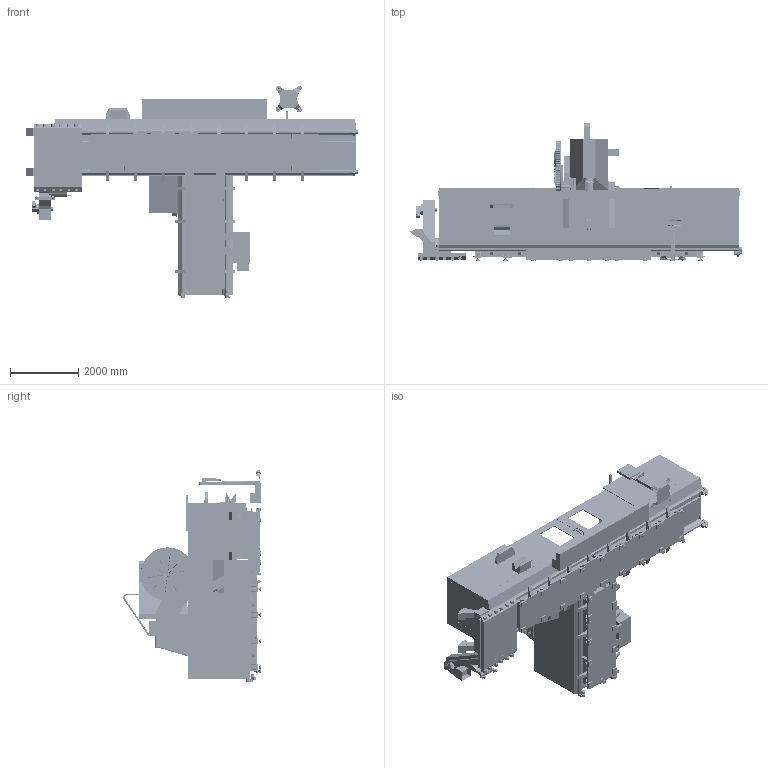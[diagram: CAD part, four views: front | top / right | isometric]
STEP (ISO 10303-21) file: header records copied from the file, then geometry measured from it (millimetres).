
FILE_DESCRIPTION (( 'STEP AP203' ), '1' );
FILE_NAME ('VA-3-5AX 1_2025.STEP', '2025-01-16T22:16:54', ( '' ), ( '' ), 'SwSTEP 2.0', 'SolidWorks 2023', '' );
FILE_SCHEMA (( 'CONFIG_CONTROL_DESIGN' ));
Length unit declared in the file: inch
Products named in the file (15): VS-3-5ax-95 Gallon In-Tank Conveyor kit; vs-3-5ax-Chip Chutes and 95 gallon tank; vs-3-5ax-70 pxt tool changer; VS-3-5ax-Floor; vs-3-5ax-Base; vs-3-5ax-Enclosure; VS-3-5ax-Column; VA-3-5AX 1_2025; vs-3-5ax-waycovers; vs-3-5ax-Table; VS-3-5ax-Control Panel; VS-3-5ax-Steps; vs-3-5ax-leveling pads; vs-3-5ax-Dual support Spindle; vs-3-5ax-Z Axis
Assembly tree (14 placements, depth 2):
  VA-3-5AX 1_2025
    vs-3-5ax-Base
    vs-3-5ax-leveling pads
    VS-3-5ax-Column
    vs-3-5ax-Table
    vs-3-5ax-70 pxt tool changer
    vs-3-5ax-Z Axis
    vs-3-5ax-Dual support Spindle
    vs-3-5ax-waycovers
    VS-3-5ax-Floor
    vs-3-5ax-Enclosure
    VS-3-5ax-Control Panel
    VS-3-5ax-Steps
    VS-3-5ax-95 Gallon In-Tank Conveyor kit
    vs-3-5ax-Chip Chutes and 95 gallon tank
Bounding box: 9696.13 x 4019.53 x 6199.42 mm (x, y, z)
Volume: 13039179244 mm3; surface area: 302458511.1 mm2
Topology: 52 solids, 79 shells, 10355 faces, 27566 edges, 17815 vertices
Faces by surface type: plane 6451, cylinder 2375, bspline 671, cone 652, torus 137, sphere 69
Entity records: 379903 total; most frequent: CARTESIAN_POINT 124299, ORIENTED_EDGE 54952, DIRECTION 49889, EDGE_CURVE 27476, VERTEX_POINT 17815, VECTOR 17785, LINE 17785, AXIS2_PLACEMENT_3D 16052
